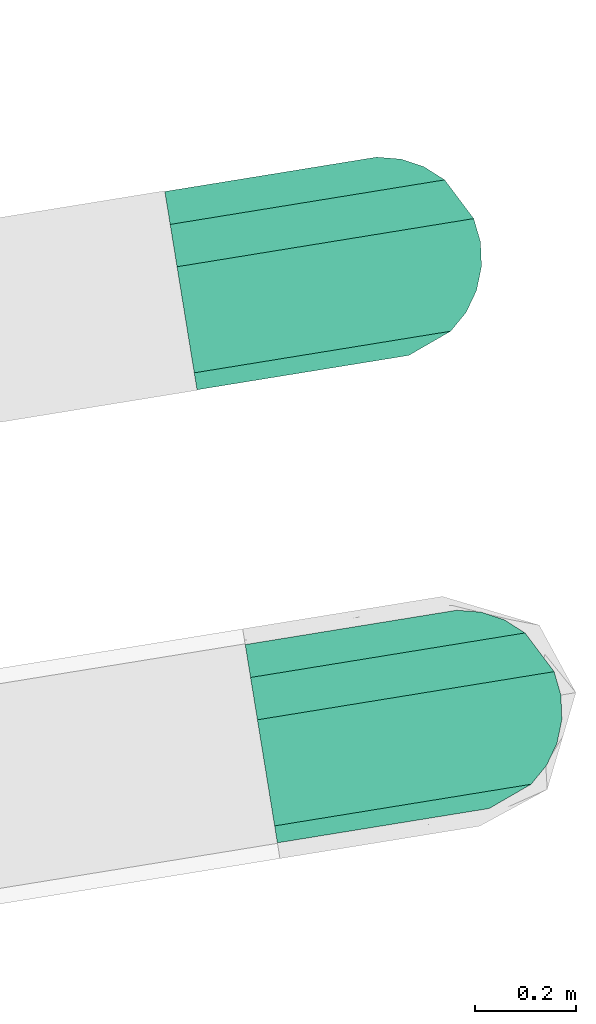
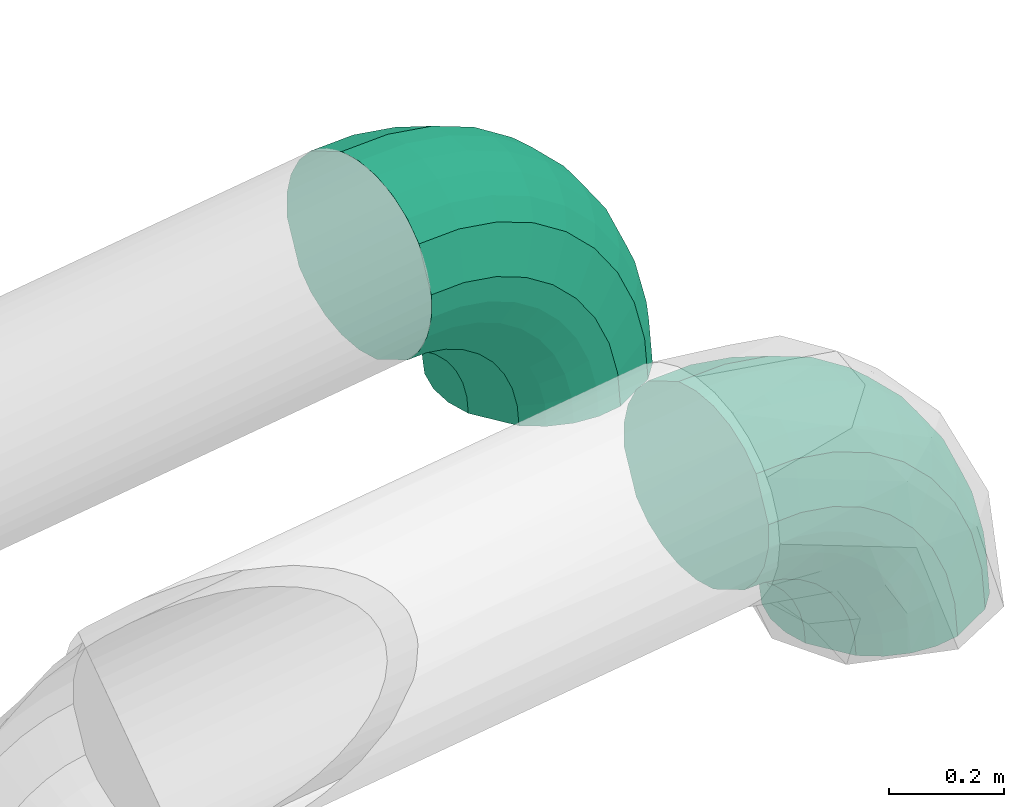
# One storey, part 4 of 6: 2 flow fittings.
"""IFC2X3 building model written with IfcOpenShell, lengths in millimetres."""

from ifc_helpers import new_model, entity, si_unit, converted_unit, derived_unit, direction, frame, origin, origin_with_axes, place, context, subcontext, project, spatial, faceted_brep, source, transform, mapped, material, type_object, element, save


model = new_model("IFC2X3")

# Units and contexts
model_context = context("Model", 3, precision=0.01, world=origin(), true_north=direction((6.12323399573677e-17, 1.0)))
plan_context = context("Plan", 3, precision=1e-05, world=origin_with_axes())
body_context = subcontext(model_context, "Body", "Model", "MODEL_VIEW")
ifc_project = project(units=[converted_unit("PLANEANGLEUNIT", "DEGREE", entity("IfcPositiveLengthMeasure", 0.0174532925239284), si_unit("PLANEANGLEUNIT", "RADIAN"), dimensions=[0, 0, 0, 0, 0, 0, 0]), si_unit("AREAUNIT", "SQUARE_METRE"), si_unit("LENGTHUNIT", "METRE", prefix="MILLI"), si_unit("MASSUNIT", "GRAM", prefix="KILO"), si_unit("POWERUNIT", "WATT"), si_unit("PRESSUREUNIT", "PASCAL", prefix="KILO"), si_unit("FORCEUNIT", "NEWTON", prefix="KILO"), si_unit("ELECTRICVOLTAGEUNIT", "VOLT"), si_unit("ELECTRICCURRENTUNIT", "AMPERE"), si_unit("THERMODYNAMICTEMPERATUREUNIT", "DEGREE_CELSIUS"), si_unit("TIMEUNIT", "SECOND"), si_unit("VOLUMEUNIT", "CUBIC_METRE"), derived_unit("LINEARVELOCITYUNIT", [(si_unit("LENGTHUNIT", "METRE"), 1), (si_unit("TIMEUNIT", "SECOND"), -1)]), derived_unit("VOLUMETRICFLOWRATEUNIT", [(si_unit("VOLUMEUNIT", "CUBIC_METRE"), 1), (si_unit("TIMEUNIT", "SECOND"), -1)]), derived_unit("THERMALTRANSMITTANCEUNIT", [(si_unit("POWERUNIT", "WATT"), 1), (si_unit("THERMODYNAMICTEMPERATUREUNIT", "KELVIN"), -1), (si_unit("AREAUNIT", "SQUARE_METRE"), -1)]), derived_unit("SOUNDPRESSUREUNIT", [(si_unit("PRESSUREUNIT", "PASCAL"), 1)])], contexts=[model_context, plan_context])

# Site, building, storey
site_placement = place(None, frame((-0.00071070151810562, 0.00438415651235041, 0.0), z_axis=(0.0, 0.0, 1.0), x_axis=(-0.160236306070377, 0.987078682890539, 0.0)))
site = spatial("IfcSite", under=ifc_project, at=site_placement, Name="Default", CompositionType="ELEMENT")
building_placement = place(site_placement, origin_with_axes())
building = spatial("IfcBuilding", under=site, at=building_placement, CompositionType="ELEMENT")
storey_placement = place(building_placement, frame((0.0, 0.0, 48160.0), z_axis=(0.0, 0.0, 1.0), x_axis=(1.0, 0.0, 0.0)))
storey = spatial("IfcBuildingStorey", under=building, at=storey_placement, Name="Nivå C", CompositionType="ELEMENT", Elevation=48160.0)

# Flow fittings
ifc_material = material(Name="<Unnamed>")
duct_fitting_type = type_object("IfcDuctFittingType", Name="magicirc_elbow_full_radius_1:magicirc_elbow_full_radius_001", PredefinedType="NOTDEFINED", material=ifc_material)
shared_shape = source(origin(), body_context, "Body", "Brep", [
    faceted_brep([(-295.81109339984, -190.884651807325, 0.0), (-296.820273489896, -185.161307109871, 47.8631328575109), (-400.0, -194.188363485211, 47.8631328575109), (-400.0, -200.0, 0.0), (-299.78916388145, -168.323893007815, 92.9446344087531), (-400.0, -177.091205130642, 92.9446344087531), (-304.545223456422, -141.350938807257, 132.624531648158), (-400.0, -149.702149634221, 132.624531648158), (-310.812047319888, -105.810014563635, 164.596773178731), (-400.0, -113.612949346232, 164.596773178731), (-326.354533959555, -17.6641926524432, 198.541774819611), (-400.0, -24.1073360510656, 198.541774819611), (-334.726923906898, 29.817990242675, 198.541774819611), (-400.0, 24.1073360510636, 198.541774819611), (-342.856027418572, 75.9204271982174, 187.003248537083), (-400.0, 70.9209774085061, 187.003248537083), (-350.269410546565, 117.963812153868, 164.596773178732), (-400.0, 113.61294934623, 164.596773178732), (-356.536234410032, 153.50473639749, 132.62453164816), (-400.0, 149.702149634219, 132.62453164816), (-364.261184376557, 197.315104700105, 47.8631328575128), (-400.0, 194.18836348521, 47.8631328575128), (-365.270364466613, 203.038449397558, 0.0), (-400.0, 200.0, 0.0), (-364.261184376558, 197.315104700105, -47.8631328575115), (-400.0, 194.18836348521, -47.8631328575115), (-361.292293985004, 180.477690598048, -92.9446344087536), (-400.0, 177.091205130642, -92.9446344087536), (-356.536234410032, 153.504736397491, -132.624531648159), (-400.0, 149.70214963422, -132.624531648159), (-350.269410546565, 117.963812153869, -164.596773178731), (-400.0, 113.612949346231, -164.596773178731), (-334.726923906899, 29.8179902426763, -198.541774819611), (-400.0, 24.1073360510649, -198.541774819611), (-326.354533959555, -17.6641926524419, -198.541774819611), (-400.0, -24.1073360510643, -198.541774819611), (-318.225430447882, -63.7666296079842, -187.003248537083), (-400.0, -70.9209774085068, -187.003248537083), (-310.812047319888, -105.810014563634, -164.596773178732), (-400.0, -113.612949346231, -164.596773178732), (-304.545223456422, -141.350938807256, -132.624531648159), (-400.0, -149.70214963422, -132.624531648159), (-296.820273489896, -185.161307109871, -47.8631328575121), (-400.0, -194.18836348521, -47.8631328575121), (-194.787914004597, -163.815572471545, 0.0), (-196.775610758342, -158.354420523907, 47.8631328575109), (-202.623183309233, -142.288346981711, 92.9446344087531), (-211.990791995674, -116.551053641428, 132.624531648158), (-224.334025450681, -82.6382984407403, 164.596773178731), (-254.946748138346, 1.46946589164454, 198.541774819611), (-271.437137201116, 46.7764374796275, 198.541774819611), (-287.448345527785, 90.7668708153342, 187.003248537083), (-302.049859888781, 130.884201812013, 164.596773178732), (-314.393093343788, 164.796957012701, 132.62453164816), (-329.608274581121, 206.60032389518, 47.8631328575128), (-331.595971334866, 212.061475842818, 0.0), (-329.608274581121, 206.600323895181, -47.8631328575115), (-323.760702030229, 190.534250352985, -92.9446344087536), (-314.393093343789, 164.796957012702, -132.624531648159), (-302.049859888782, 130.884201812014, -164.596773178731), (-271.437137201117, 46.7764374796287, -198.541774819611), (-254.946748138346, 1.46946589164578, -198.541774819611), (-238.935539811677, -42.5209674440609, -187.003248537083), (-224.334025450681, -82.6382984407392, -164.596773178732), (-211.990791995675, -116.551053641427, -132.624531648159), (-196.775610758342, -158.354420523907, -47.8631328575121), (-100.0, -119.615242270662, 0.0), (-102.905818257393, -114.582217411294, 47.8631328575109), (-111.454397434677, -99.7756439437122, 92.9446344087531), (-125.148925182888, -76.0560260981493, 132.624531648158), (-143.193525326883, -44.8018618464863, 164.596773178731), (-187.946331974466, 32.7122730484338, 198.541774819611), (-212.053668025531, 74.4674039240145, 198.541774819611), (-235.460488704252, 115.009206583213, 187.003248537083), (-256.806474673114, 151.981538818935, 164.596773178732), (-274.851074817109, 183.235703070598, 132.62453164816), (-297.094181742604, 221.761894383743, 47.8631328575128), (-300.0, 226.794919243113, 0.0), (-297.094181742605, 221.761894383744, -47.8631328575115), (-288.54560256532, 206.955320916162, -92.9446344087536), (-274.851074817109, 183.235703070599, -132.624531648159), (-256.806474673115, 151.981538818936, -164.596773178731), (-212.053668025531, 74.4674039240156, -198.541774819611), (-187.946331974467, 32.712273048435, -198.541774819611), (-164.539511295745, -7.829529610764, -187.003248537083), (-143.193525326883, -44.8018618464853, -164.596773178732), (-125.148925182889, -76.0560260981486, -132.624531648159), (-102.905818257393, -114.582217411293, -47.8631328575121), (-14.327434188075, -59.6266658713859, 0.0), (-18.0630821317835, -55.1746940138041, 47.8631328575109), (-29.0529236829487, -42.0775108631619, 92.9446344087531), (-46.6582691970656, -21.0962770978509, 132.624531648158), (-69.8559599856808, 6.54965423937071, 164.596773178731), (-127.389059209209, 75.1149319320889, 198.541774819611), (-158.380853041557, 112.049513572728, 198.541774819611), (-188.47208167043, 147.910843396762, 187.003248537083), (-215.913952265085, 180.614791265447, 164.596773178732), (-239.1116430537, 208.260722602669, 132.62453164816), (-267.706830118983, 242.339139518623, 47.8631328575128), (-271.442478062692, 246.791111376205, 0.0), (-267.706830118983, 242.339139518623, -47.8631328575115), (-256.716988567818, 229.24195636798, -92.9446344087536), (-239.111643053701, 208.260722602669, -132.624531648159), (-215.913952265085, 180.614791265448, -164.596773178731), (-158.380853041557, 112.049513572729, -198.541774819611), (-127.389059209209, 75.1149319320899, -198.541774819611), (-97.297830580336, 39.2536021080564, -187.003248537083), (-69.8559599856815, 6.54965423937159, -164.596773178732), (-46.6582691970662, -21.0962770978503, -132.624531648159), (-18.0630821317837, -55.1746940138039, -47.8631328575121), (59.626665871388, 14.3274341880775, 0.0), (55.1746940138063, 18.0630821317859, 47.8631328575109), (42.077510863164, 29.0529236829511, 92.9446344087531), (21.0962770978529, 46.6582691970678, 132.624531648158), (-6.54965423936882, 69.8559599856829, 164.596773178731), (-75.1149319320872, 127.38905920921, 198.541774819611), (-112.049513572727, 158.380853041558, 198.541774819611), (-147.910843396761, 188.472081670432, 187.003248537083), (-180.614791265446, 215.913952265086, 164.596773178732), (-208.260722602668, 239.111643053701, 132.62453164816), (-242.339139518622, 267.706830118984, 47.8631328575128), (-246.791111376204, 271.442478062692, 0.0), (-242.339139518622, 267.706830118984, -47.8631328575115), (-229.24195636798, 256.716988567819, -92.9446344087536), (-208.260722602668, 239.111643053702, -132.624531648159), (-180.614791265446, 215.913952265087, -164.596773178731), (-112.049513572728, 158.380853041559, -198.541774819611), (-75.1149319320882, 127.389059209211, -198.541774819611), (-39.2536021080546, 97.297830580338, -187.003248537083), (-6.54965423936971, 69.8559599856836, -164.596773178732), (21.0962770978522, 46.6582691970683, -132.624531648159), (55.174694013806, 18.0630821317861, -47.8631328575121), (119.615242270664, 100.0, 0.0), (114.582217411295, 102.905818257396, 47.8631328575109), (99.775643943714, 111.45439743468, 92.9446344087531), (76.056026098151, 125.148925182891, 132.624531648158), (44.8018618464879, 143.193525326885, 164.596773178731), (-32.7122730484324, 187.946331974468, 198.541774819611), (-74.4674039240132, 212.053668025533, 198.541774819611), (-115.009206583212, 235.460488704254, 187.003248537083), (-151.981538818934, 256.806474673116, 164.596773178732), (-183.235703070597, 274.85107481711, 132.62453164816), (-221.761894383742, 297.094181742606, 47.8631328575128), (-226.794919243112, 300.0, 0.0), (-221.761894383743, 297.094181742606, -47.8631328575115), (-206.955320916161, 288.545602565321, -92.9446344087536), (-183.235703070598, 274.851074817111, -132.624531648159), (-151.981538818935, 256.806474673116, -164.596773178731), (-74.4674039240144, 212.053668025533, -198.541774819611), (-32.7122730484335, 187.946331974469, -198.541774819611), (7.82952961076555, 164.539511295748, -187.003248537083), (44.8018618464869, 143.193525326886, -164.596773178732), (76.0560260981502, 125.148925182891, -132.624531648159), (114.582217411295, 102.905818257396, -47.8631328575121), (163.815572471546, 194.7879140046, 0.0), (158.354420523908, 196.775610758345, 47.8631328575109), (142.288346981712, 202.623183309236, 92.9446344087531), (116.551053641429, 211.990791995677, 132.624531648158), (82.6382984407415, 224.334025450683, 164.596773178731), (-1.46946589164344, 254.946748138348, 198.541774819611), (-46.7764374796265, 271.437137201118, 198.541774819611), (-90.7668708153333, 287.448345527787, 187.003248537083), (-130.884201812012, 302.049859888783, 164.596773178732), (-164.7969570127, 314.39309334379, 132.62453164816), (-206.60032389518, 329.608274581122, 47.8631328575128), (-212.061475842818, 331.595971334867, 0.0), (-206.60032389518, 329.608274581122, -47.8631328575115), (-190.534250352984, 323.760702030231, -92.9446344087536), (-164.796957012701, 314.39309334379, -132.624531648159), (-130.884201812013, 302.049859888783, -164.596773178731), (-46.7764374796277, 271.437137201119, -198.541774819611), (-1.46946589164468, 254.946748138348, -198.541774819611), (42.5209674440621, 238.93553981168, -187.003248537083), (82.6382984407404, 224.334025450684, -164.596773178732), (116.551053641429, 211.990791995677, -132.624531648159), (158.354420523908, 196.775610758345, -47.8631328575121), (190.884651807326, 295.811093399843, 0.0), (185.161307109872, 296.820273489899, 47.8631328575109), (168.323893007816, 299.789163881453, 92.9446344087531), (141.350938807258, 304.545223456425, 132.624531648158), (105.810014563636, 310.812047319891, 164.596773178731), (17.664192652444, 326.354533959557, 198.541774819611), (-29.8179902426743, 334.7269239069, 198.541774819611), (-75.9204271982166, 342.856027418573, 187.003248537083), (-117.963812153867, 350.269410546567, 164.596773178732), (-153.504736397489, 356.536234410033, 132.62453164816), (-197.315104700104, 364.261184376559, 47.8631328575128), (-203.038449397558, 365.270364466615, 0.0), (-197.315104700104, 364.261184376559, -47.8631328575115), (-180.477690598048, 361.292293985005, -92.9446344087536), (-153.50473639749, 356.536234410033, -132.624531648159), (-117.963812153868, 350.269410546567, -164.596773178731), (-29.8179902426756, 334.726923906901, -198.541774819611), (17.6641926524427, 326.354533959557, -198.541774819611), (63.766629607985, 318.225430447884, -187.003248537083), (105.810014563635, 310.812047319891, -164.596773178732), (141.350938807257, 304.545223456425, -132.624531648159), (185.161307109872, 296.820273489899, -47.8631328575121), (200.0, 400.0, 0.0), (194.188363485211, 400.0, 47.8631328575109), (177.091205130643, 400.0, 92.9446344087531), (149.702149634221, 400.0, 132.624531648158), (113.612949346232, 400.0, 164.596773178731), (24.1073360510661, 400.0, 198.541774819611), (-24.107336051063, 400.0, 198.541774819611), (-70.9209774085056, 400.0, 187.003248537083), (-113.61294934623, 400.0, 164.596773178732), (-149.702149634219, 400.0, 132.62453164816), (-194.18836348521, 400.0, 47.8631328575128), (-200.0, 400.0, 0.0), (-194.18836348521, 400.0, -47.8631328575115), (-177.091205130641, 400.0, -92.9446344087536), (-149.70214963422, 400.0, -132.624531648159), (-113.612949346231, 400.0, -164.596773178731), (-24.1073360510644, 400.0, -198.541774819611), (24.1073360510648, 400.0, -198.541774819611), (70.9209774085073, 400.0, -187.003248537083), (113.612949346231, 400.0, -164.596773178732), (149.70214963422, 400.0, -132.624531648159), (194.188363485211, 400.0, -47.8631328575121)], [[[0, 1, 2, 3]], [[1, 4, 5, 2]], [[4, 6, 7, 5]], [[6, 8, 9, 7]], [[8, 10, 11, 9]], [[10, 12, 13, 11]], [[12, 14, 15, 13]], [[14, 16, 17, 15]], [[16, 18, 19, 17]], [[18, 20, 21, 19]], [[20, 22, 23, 21]], [[22, 24, 25, 23]], [[24, 26, 27, 25]], [[26, 28, 29, 27]], [[28, 30, 31, 29]], [[30, 32, 33, 31]], [[32, 34, 35, 33]], [[34, 36, 37, 35]], [[36, 38, 39, 37]], [[38, 40, 41, 39]], [[40, 42, 43, 41]], [[42, 0, 3, 43]], [[44, 45, 1, 0]], [[45, 46, 4, 1]], [[46, 47, 6, 4]], [[47, 48, 8, 6]], [[48, 49, 10, 8]], [[49, 50, 12, 10]], [[50, 51, 14, 12]], [[51, 52, 16, 14]], [[52, 53, 18, 16]], [[53, 54, 20, 18]], [[54, 55, 22, 20]], [[55, 56, 24, 22]], [[56, 57, 26, 24]], [[57, 58, 28, 26]], [[58, 59, 30, 28]], [[59, 60, 32, 30]], [[60, 61, 34, 32]], [[61, 62, 36, 34]], [[62, 63, 38, 36]], [[63, 64, 40, 38]], [[64, 65, 42, 40]], [[65, 44, 0, 42]], [[66, 67, 45, 44]], [[67, 68, 46, 45]], [[68, 69, 47, 46]], [[69, 70, 48, 47]], [[70, 71, 49, 48]], [[71, 72, 50, 49]], [[72, 73, 51, 50]], [[73, 74, 52, 51]], [[74, 75, 53, 52]], [[75, 76, 54, 53]], [[76, 77, 55, 54]], [[77, 78, 56, 55]], [[78, 79, 57, 56]], [[79, 80, 58, 57]], [[80, 81, 59, 58]], [[81, 82, 60, 59]], [[82, 83, 61, 60]], [[83, 84, 62, 61]], [[84, 85, 63, 62]], [[85, 86, 64, 63]], [[86, 87, 65, 64]], [[87, 66, 44, 65]], [[88, 89, 67, 66]], [[89, 90, 68, 67]], [[90, 91, 69, 68]], [[91, 92, 70, 69]], [[92, 93, 71, 70]], [[93, 94, 72, 71]], [[94, 95, 73, 72]], [[95, 96, 74, 73]], [[96, 97, 75, 74]], [[97, 98, 76, 75]], [[98, 99, 77, 76]], [[99, 100, 78, 77]], [[100, 101, 79, 78]], [[101, 102, 80, 79]], [[102, 103, 81, 80]], [[103, 104, 82, 81]], [[104, 105, 83, 82]], [[105, 106, 84, 83]], [[106, 107, 85, 84]], [[107, 108, 86, 85]], [[108, 109, 87, 86]], [[109, 88, 66, 87]], [[110, 111, 89, 88]], [[111, 112, 90, 89]], [[112, 113, 91, 90]], [[113, 114, 92, 91]], [[114, 115, 93, 92]], [[115, 116, 94, 93]], [[116, 117, 95, 94]], [[117, 118, 96, 95]], [[118, 119, 97, 96]], [[119, 120, 98, 97]], [[120, 121, 99, 98]], [[121, 122, 100, 99]], [[122, 123, 101, 100]], [[123, 124, 102, 101]], [[124, 125, 103, 102]], [[125, 126, 104, 103]], [[126, 127, 105, 104]], [[127, 128, 106, 105]], [[128, 129, 107, 106]], [[129, 130, 108, 107]], [[130, 131, 109, 108]], [[131, 110, 88, 109]], [[132, 133, 111, 110]], [[133, 134, 112, 111]], [[134, 135, 113, 112]], [[135, 136, 114, 113]], [[136, 137, 115, 114]], [[137, 138, 116, 115]], [[138, 139, 117, 116]], [[139, 140, 118, 117]], [[140, 141, 119, 118]], [[141, 142, 120, 119]], [[142, 143, 121, 120]], [[143, 144, 122, 121]], [[144, 145, 123, 122]], [[145, 146, 124, 123]], [[146, 147, 125, 124]], [[147, 148, 126, 125]], [[148, 149, 127, 126]], [[149, 150, 128, 127]], [[150, 151, 129, 128]], [[151, 152, 130, 129]], [[152, 153, 131, 130]], [[153, 132, 110, 131]], [[154, 155, 133, 132]], [[155, 156, 134, 133]], [[156, 157, 135, 134]], [[157, 158, 136, 135]], [[158, 159, 137, 136]], [[159, 160, 138, 137]], [[160, 161, 139, 138]], [[161, 162, 140, 139]], [[162, 163, 141, 140]], [[163, 164, 142, 141]], [[164, 165, 143, 142]], [[165, 166, 144, 143]], [[166, 167, 145, 144]], [[167, 168, 146, 145]], [[168, 169, 147, 146]], [[169, 170, 148, 147]], [[170, 171, 149, 148]], [[171, 172, 150, 149]], [[172, 173, 151, 150]], [[173, 174, 152, 151]], [[174, 175, 153, 152]], [[175, 154, 132, 153]], [[176, 177, 155, 154]], [[177, 178, 156, 155]], [[178, 179, 157, 156]], [[179, 180, 158, 157]], [[180, 181, 159, 158]], [[181, 182, 160, 159]], [[182, 183, 161, 160]], [[183, 184, 162, 161]], [[184, 185, 163, 162]], [[185, 186, 164, 163]], [[186, 187, 165, 164]], [[187, 188, 166, 165]], [[188, 189, 167, 166]], [[189, 190, 168, 167]], [[190, 191, 169, 168]], [[191, 192, 170, 169]], [[192, 193, 171, 170]], [[193, 194, 172, 171]], [[194, 195, 173, 172]], [[195, 196, 174, 173]], [[196, 197, 175, 174]], [[197, 176, 154, 175]], [[198, 199, 177, 176]], [[199, 200, 178, 177]], [[200, 201, 179, 178]], [[201, 202, 180, 179]], [[202, 203, 181, 180]], [[203, 204, 182, 181]], [[204, 205, 183, 182]], [[205, 206, 184, 183]], [[206, 207, 185, 184]], [[207, 208, 186, 185]], [[208, 209, 187, 186]], [[209, 210, 188, 187]], [[210, 211, 189, 188]], [[211, 212, 190, 189]], [[212, 213, 191, 190]], [[213, 214, 192, 191]], [[214, 215, 193, 192]], [[215, 216, 194, 193]], [[216, 217, 195, 194]], [[217, 218, 196, 195]], [[218, 219, 197, 196]], [[219, 198, 176, 197]], [[3, 2, 5, 7, 9, 11, 13, 15, 17, 19, 21, 23, 25, 27, 29, 31, 33, 35, 37, 39, 41, 43]], [[219, 218, 217, 216, 215, 214, 213, 212, 211, 210, 209, 208, 207, 206, 205, 204, 203, 202, 201, 200, 199, 198]]]),
])
for number, where, z_axis, x_axis, name in (
    (1, (771678.1172552, -596900.400360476, 1950.0), (-1.0, 0.0, 0.0), (0.0, 0.0, 1.0), "magicirc_elbow_full_radius_1:magicirc_elbow_full_radius_001"),
    (2, (772587.619644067, -596887.062704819, 1950.0), (-1.0, 0.0, 0.0), (0.0, 0.0, 1.0), "magicirc_elbow_full_radius_1:magicirc_elbow_full_radius_001"),
):
    element("IfcFlowFitting", number, at=place(storey_placement, frame(where, z_axis=z_axis, x_axis=x_axis)), inside=storey, type_object=duct_fitting_type, material=ifc_material, Name=name, ObjectType="magicirc_elbow_full_radius_1:magicirc_elbow_full_radius_001", context=body_context, shape_type="MappedRepresentation", body=[
        mapped(shared_shape, transform((0.0, 0.0, 0.0), scale=1.0)),
    ])

save(model, "model.ifc")
